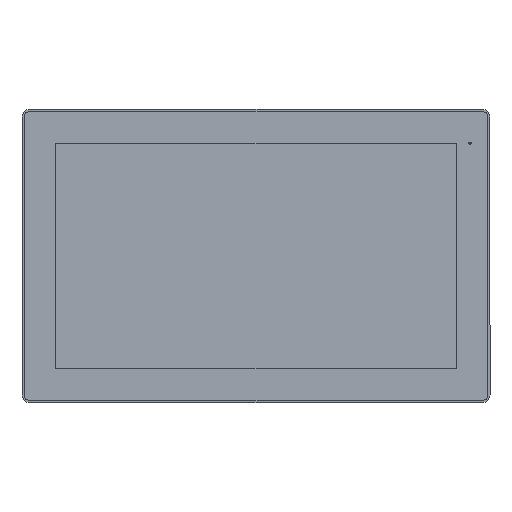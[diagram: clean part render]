
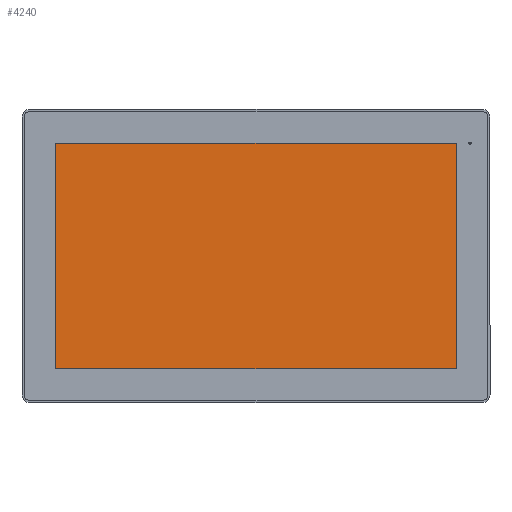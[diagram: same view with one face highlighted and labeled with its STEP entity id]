
A CAD part, top view. The second image highlights one B-rep face of the part: STEP entity #4240.
In plain terms, the highlighted planar face has unit normal (0, 0, 1).
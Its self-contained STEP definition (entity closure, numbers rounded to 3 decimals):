
#51 = ORIENTED_EDGE ( 'NONE', *, *, #2725, .T. ) ;
#177 = ORIENTED_EDGE ( 'NONE', *, *, #11367, .T. ) ;
#350 = VECTOR ( 'NONE', #11187, 1000. ) ;
#384 = LINE ( 'NONE', #7595, #350 ) ;
#650 = EDGE_CURVE ( 'NONE', #5207, #3544, #2242, .T. ) ;
#905 = EDGE_LOOP ( 'NONE', ( #1530, #51, #177, #9129 ) ) ;
#1530 = ORIENTED_EDGE ( 'NONE', *, *, #2790, .T. ) ;
#1784 = CARTESIAN_POINT ( 'NONE',  ( -172.28, 96.995, 5.5 ) ) ;
#2242 = LINE ( 'NONE', #9390, #2311 ) ;
#2311 = VECTOR ( 'NONE', #11276, 1000. ) ;
#2353 = FACE_OUTER_BOUND ( 'NONE', #905, .T. ) ;
#2725 = EDGE_CURVE ( 'NONE', #7241, #8322, #7228, .T. ) ;
#2790 = EDGE_CURVE ( 'NONE', #3544, #7241, #3071, .T. ) ;
#3071 = LINE ( 'NONE', #10383, #9127 ) ;
#3544 = VERTEX_POINT ( 'NONE', #7462 ) ;
#3835 = CARTESIAN_POINT ( 'NONE',  ( 172.28, 96.995, 5.5 ) ) ;
#4240 = ADVANCED_FACE ( 'NONE', ( #2353 ), #10623, .T. ) ;
#4569 = CARTESIAN_POINT ( 'NONE',  ( -172.28, -96.995, 5.5 ) ) ;
#5141 = VECTOR ( 'NONE', #10985, 1000. ) ;
#5207 = VERTEX_POINT ( 'NONE', #4569 ) ;
#7228 = LINE ( 'NONE', #1784, #5141 ) ;
#7241 = VERTEX_POINT ( 'NONE', #3835 ) ;
#7462 = CARTESIAN_POINT ( 'NONE',  ( 172.28, -96.995, 5.5 ) ) ;
#7595 = CARTESIAN_POINT ( 'NONE',  ( -172.28, 96.995, 5.5 ) ) ;
#8322 = VERTEX_POINT ( 'NONE', #9025 ) ;
#9025 = CARTESIAN_POINT ( 'NONE',  ( -172.28, 96.995, 5.5 ) ) ;
#9127 = VECTOR ( 'NONE', #9324, 1000. ) ;
#9129 = ORIENTED_EDGE ( 'NONE', *, *, #650, .T. ) ;
#9244 = AXIS2_PLACEMENT_3D ( 'NONE', #10384, #9499, #9554 ) ;
#9324 = DIRECTION ( 'NONE',  ( 0., 1., 0. ) ) ;
#9390 = CARTESIAN_POINT ( 'NONE',  ( -172.28, -96.995, 5.5 ) ) ;
#9499 = DIRECTION ( 'NONE',  ( 0., 0., 1. ) ) ;
#9554 = DIRECTION ( 'NONE',  ( 1., 0., 0. ) ) ;
#10383 = CARTESIAN_POINT ( 'NONE',  ( 172.28, 96.995, 5.5 ) ) ;
#10384 = CARTESIAN_POINT ( 'NONE',  ( 0., 0., 5.5 ) ) ;
#10623 = PLANE ( 'NONE',  #9244 ) ;
#10985 = DIRECTION ( 'NONE',  ( -1., 0., 0. ) ) ;
#11187 = DIRECTION ( 'NONE',  ( 0., -1., 0. ) ) ;
#11276 = DIRECTION ( 'NONE',  ( 1., 0., 0. ) ) ;
#11367 = EDGE_CURVE ( 'NONE', #8322, #5207, #384, .T. ) ;
